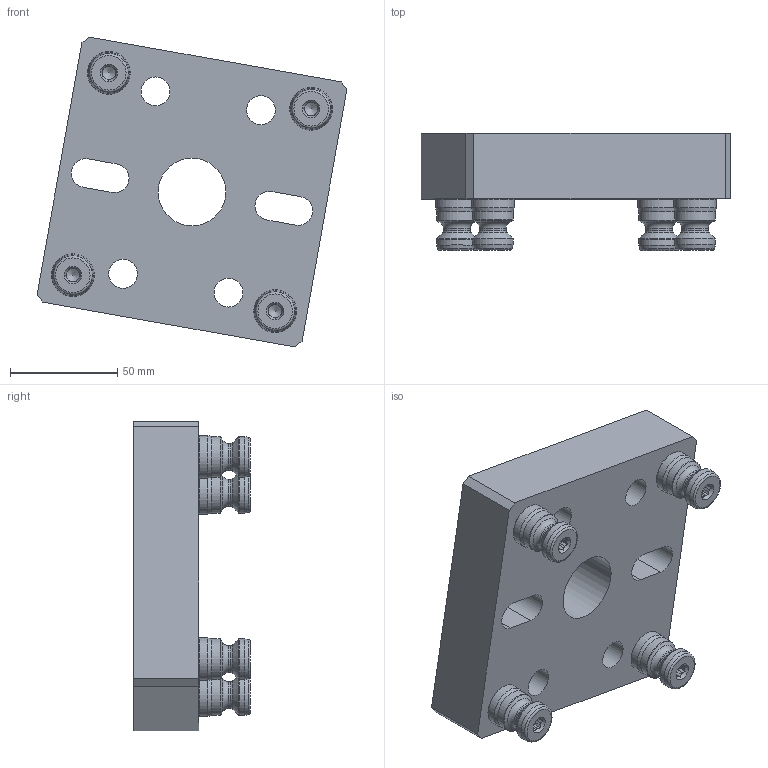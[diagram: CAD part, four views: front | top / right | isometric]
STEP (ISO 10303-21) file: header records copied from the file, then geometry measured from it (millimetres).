
FILE_DESCRIPTION (( 'STEP AP214' ), '1' );
FILE_NAME ('RL96-MP_WEBSITE.STEP', '2025-08-11T11:32:07', ( '' ), ( '' ), 'SwSTEP 2.0', 'SolidWorks 2025', '' );
FILE_SCHEMA (( 'AUTOMOTIVE_DESIGN' ));
Length unit declared in the file: millimetre
Products named in the file (5): D_RL96-MP_WEBSITE; D_96144A256_METRIC CLASS 12.9 SOCKET HEAD CAP SCREW_WEBSITE_96144A256; D_PS20F_WEBSITE; RL96-MP_WEBSITE; D_PS20F-1_WEBSITE_HARD TURN
Assembly tree (10 placements, depth 3):
  RL96-MP_WEBSITE
    D_RL96-MP_WEBSITE
    D_PS20F_WEBSITE  x4
      D_PS20F-1_WEBSITE_HARD TURN
    D_96144A256_METRIC CLASS 12.9 SOCKET HEAD CAP SCREW_WEBSITE_96144A256  x4
Bounding box: 144.7 x 54.48 x 144.7 mm (x, y, z)
Volume: 437572.7 mm3; surface area: 78158 mm2
Topology: 9 solids, 9 shells, 303 faces, 683 edges, 422 vertices
Faces by surface type: plane 150, cylinder 61, cone 60, torus 32
Full cylindrical faces by diameter (mm): 6.147 x4, 8.5 x4, 10 x8, 10.719 x4, 12.497 x4, 13.487 x4, 15.989 x4, 15.992 x4, 16 x4, 16.51 x4, 19.012 x8, 19.972 x4, 31.75 x1
Entity records: 4074 total; most frequent: CARTESIAN_POINT 596, DIRECTION 508, ORIENTED_EDGE 382, AXIS2_PLACEMENT_3D 213, EDGE_CURVE 191, EDGE_LOOP 186, VERTEX_POINT 145, FACE_OUTER_BOUND 143
